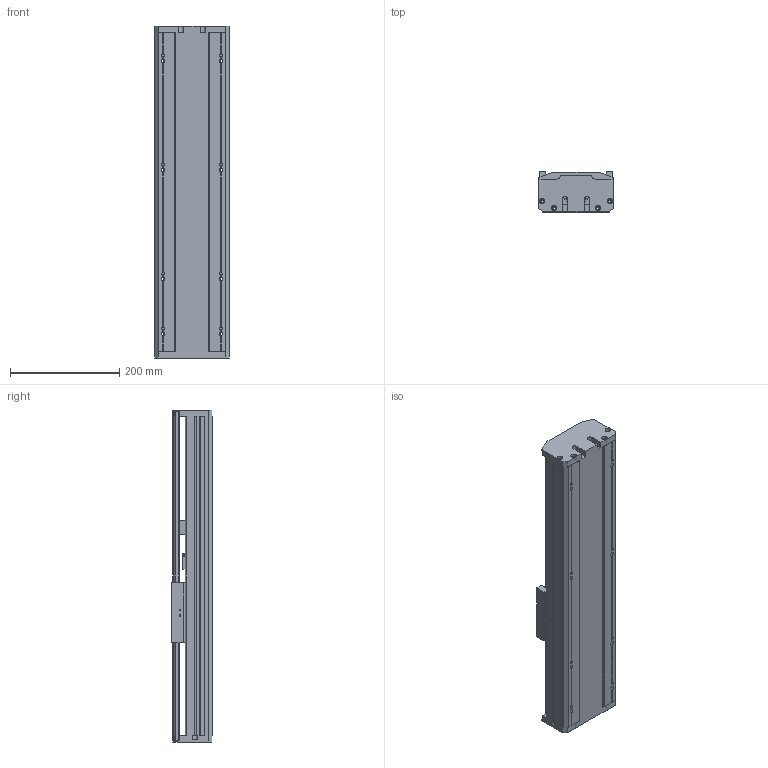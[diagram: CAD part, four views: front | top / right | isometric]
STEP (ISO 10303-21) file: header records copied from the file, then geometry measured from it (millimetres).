
FILE_DESCRIPTION(/* description */ (''),/* implementation_level */ '2;1');
FILE_NAME(/* name */ 'TKA136-FI-150_asm1.stp',/* time_stamp */ '2016-05-07T10:14:35+08:00',/* author */ (''),/* organization */ (''),/* preprocessor_version */ 'ST-DEVELOPER v15',/* originating_system */ 'SIEMENS PLM Software NX 8.5',/* authorisation */ '');
FILE_SCHEMA (('AUTOMOTIVE_DESIGN { 1 0 10303 214 3 1 1 1 }'));
Length unit declared in the file: millimetre
Products named in the file (3): 100-02; 100-01; TKA136-FI-150_asm1
Assembly tree (2 placements, depth 2):
  TKA136-FI-150_asm1
    100-01
    100-02
Bounding box: 136 x 75 x 609 mm (x, y, z)
Volume: 2124862.1 mm3; surface area: 769719.3 mm2
Topology: 2 solids, 12 shells, 919 faces, 2594 edges, 1699 vertices
Faces by surface type: cylinder 437, plane 432, cone 50
Full cylindrical faces by diameter (mm): 2.5 x4, 3.3 x8, 4.2 x8, 4.5 x20, 5 x6, 5.5 x14, 8 x20, 10 x9, 10.5 x2, 11.6 x1, 12 x8, 15 x3, 16 x5, 24 x3, 26 x1, 28 x1, 46 x1
Entity records: 31385 total; most frequent: CARTESIAN_POINT 7993, DIRECTION 4814, ORIENTED_EDGE 4744, EDGE_CURVE 2372, AXIS2_PLACEMENT_3D 1784, VERTEX_POINT 1651, LINE 1246, VECTOR 1246
